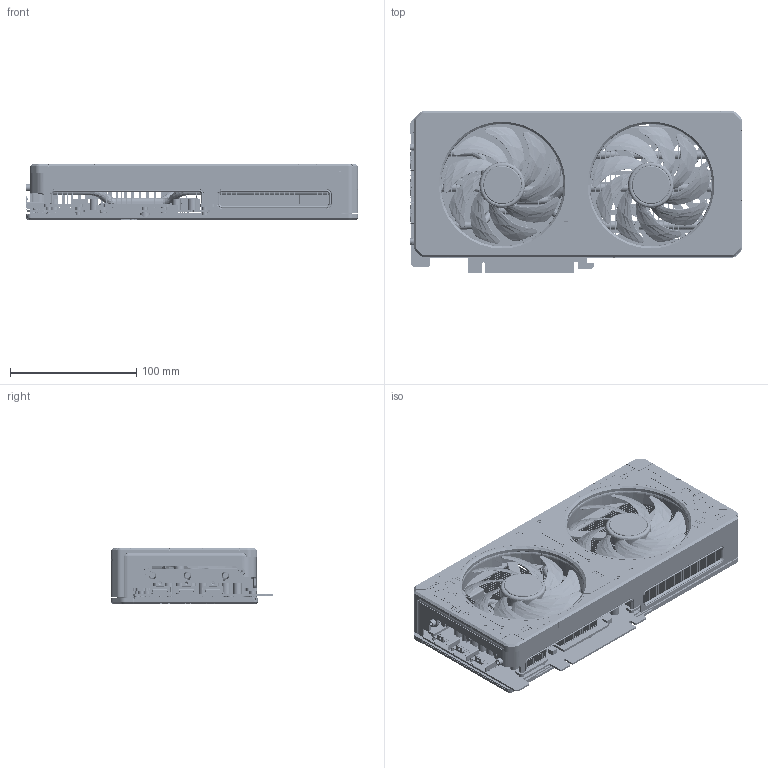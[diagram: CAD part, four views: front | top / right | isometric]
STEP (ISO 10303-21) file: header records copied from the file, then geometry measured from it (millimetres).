
FILE_DESCRIPTION((''),'2;1');
FILE_NAME('0000_GB2060_ASM_ASM_3_ASM','2025-04-23T13:35:41',('Kate'),(''),'CREO PARAMETRIC BY PTC INC, 2021304','CREO PARAMETRIC BY PTC INC, 2021304','');
FILE_SCHEMA(('AUTOMOTIVE_DESIGN { 1 0 10303 214 1 1 1 1 }'));
Products named in the file (61): GB2060_PCB_2; POWER_16PIN_2; 8PIN_POWER_1_1_1_2; DP_1_1_1_1_1_1_1_1_1_1_1_1_1_1_; HDMI_1_1_1_1_1_1_1_1_1_1_1_1_1_; DP-HDMI_ASM_1_ASM_2_ASM; GB2060_PCB_ASM_ASM_2_ASM; GB2060_MODULES_CU_BASE_2; DM280_AL_BASE_1125_1_1_1_1_1__1; M2_L4-6_NUT_2; M2_L4-69_NUT_1_1_1_1_1_1_1_1__1; GREASE_GB2060_5121_2; DM280_DRAM_PAD_2; DM280_MOS_PAD_01_1_1_1_1_1_1__2; DM280_CU_BASE_ASM_ASM_2_ASM; DM280-3HP_01_2; DM280-3HP_02_2; DM280-3HP_03_2; DM280-3HP_HP_ASM_ASM_2_ASM; DM280-3HP_FIN_01_2; DM280-3HP_FIN_02_2; DM280-3HP_FIN_03_2; DM280-3HP_FIN_04_2; DM280-3HP_FIN_05_2; DM280-3HP_FIN_06_2; DM280-3HP_FIN_07_2; DM280-3HP_FIN_09_2; DM280-3HP_FIN_10_2; DM280-3HP_FIN_11_2; DM280-3HP_FIN_12_2; DM280-3HP_FIN_ASM_ASM_2_ASM; DM280-3HP_AL1100_HOLDER_01_2; DM280_AL1100_HOLDER_02_2; DM280_AL1100_RAM_1_1_1_1_1_1__1; DM280_PAD_RAM_2; DM280_AL1100_RAM_02_2; DM280_AL1100_RAM_03_2; M2_L4-69_NUT_1_1_1_1_1_1_1_1__2; M2_L4-69_NUT_2; M2_L5-59_NUT_2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
Assembly tree (179 placements, depth 4):
  0000_GB2060_ASM_ASM_3_ASM
    GB2060_PCB_ASM_ASM_2_ASM
      GB2060_PCB_2
      POWER_16PIN_2
      8PIN_POWER_1_1_1_2
      DP-HDMI_ASM_1_ASM_2_ASM
        DP_1_1_1_1_1_1_1_1_1_1_1_1_1_1_  x3
        HDMI_1_1_1_1_1_1_1_1_1_1_1_1_1_
    DM280-3HP_MODULE_ASM_ASM_2_ASM
      DM280_CU_BASE_ASM_ASM_2_ASM
        GB2060_MODULES_CU_BASE_2
        DM280_AL_BASE_1125_1_1_1_1_1__1
        M2_L4-6_NUT_2  x4
        M2_L4-69_NUT_1_1_1_1_1_1_1_1__1  x2
        GREASE_GB2060_5121_2
        DM280_DRAM_PAD_2  x2
        DM280_MOS_PAD_01_1_1_1_1_1_1__2  x3
      DM280-3HP_HP_ASM_ASM_2_ASM
        DM280-3HP_01_2
        DM280-3HP_02_2
        DM280-3HP_03_2
      DM280-3HP_FIN_ASM_ASM_2_ASM
        DM280-3HP_FIN_01_2  x5
        DM280-3HP_FIN_02_2  x8
        DM280-3HP_FIN_03_2  x3
        DM280-3HP_FIN_04_2  x5
        DM280-3HP_FIN_05_2  x5
        DM280-3HP_FIN_06_2  x4
        DM280-3HP_FIN_07_2  x4
        DM280-3HP_FIN_09_2  x6
        DM280-3HP_FIN_10_2  x4
        DM280-3HP_FIN_11_2  x4
        DM280-3HP_FIN_12_2  x45
      DM280-3HP_AL1100_HOLDER_01_2
      DM280_AL1100_HOLDER_02_2
      DM280_AL1100_RAM_1_1_1_1_1_1__1
      DM280_PAD_RAM_2
      DM280_AL1100_RAM_02_2
      DM280_AL1100_RAM_03_2
      M2_L4-69_NUT_1_1_1_1_1_1_1_1__2  x4
      M2_L4-69_NUT_2  x2
      M2_L5-59_NUT_2  x2
      13-11-1220033-2A_2  x6
    F330-1B0_COVER_ASM_ASM_2_ASM
      F330-1B0-COVER_FEEDBACK_DRAFT_2
      F330-1B0_LED_ASM_ASM_2_ASM
        F330-1B0_LED_HG_2
        F330-1B0_LED_PCBA_2
        F330-1B0_LED_JGB_A_2
        F330-1B0_LED_JBG_B_2
      9513_A_VERSION_ASM_ASM_2_ASM  x2
        9513_SY_B_20230612_1__2
        9513_FAN_TRI_FRAME_1_1_2
        SCREW_13-51-0SR0001-1A_2
      NP_13-59-0AN0026-2A_01_2  x2
      13-11-1220033-2A_2  x2
    PC013-1B0_BACKPLATE_ASM_ASM_2_ASM
      PC013-1B0_BACKPLATE_2
      M2_SPRING_SCREW_L7_ASM_2_ASM  x6
        M2_SPRING_SCREW_L7_2
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Bounding box: 263.37 x 128.34 x 44 mm (x, y, z)
Volume: 387438.9 mm3; surface area: 735979.1 mm2
Topology: 178 solids, 221 shells, 18777 faces, 53933 edges, 36017 vertices
Faces by surface type: plane 12114, cylinder 4793, bspline 962, torus 606, cone 207, extrusion 71, sphere 16, revolution 8
Entity records: 363839 total; most frequent: CARTESIAN_POINT 121503, ORIENTED_EDGE 51150, DIRECTION 46820, EDGE_CURVE 25575, VERTEX_POINT 16820, VECTOR 16606, LINE 16541, AXIS2_PLACEMENT_3D 15103
